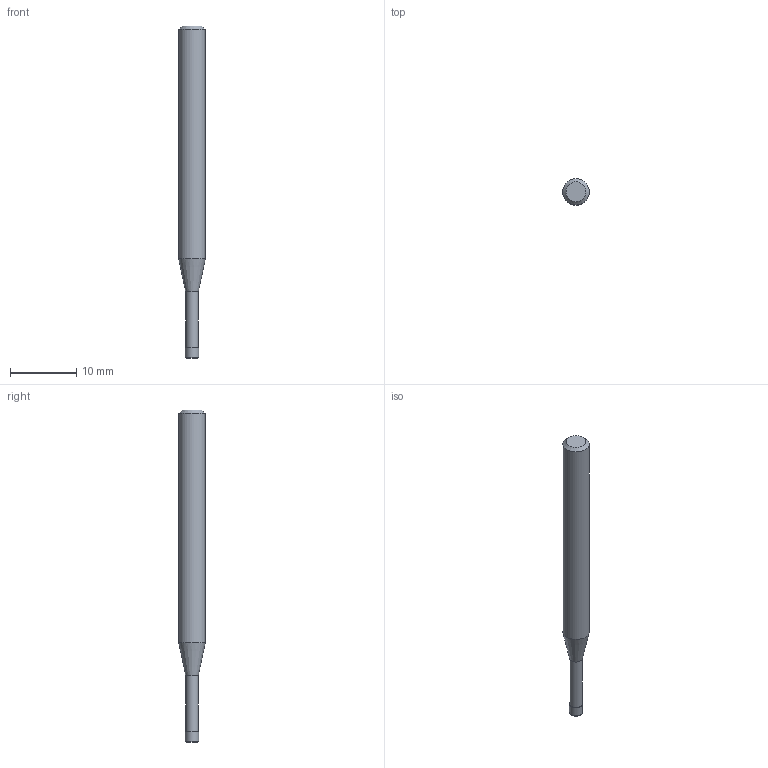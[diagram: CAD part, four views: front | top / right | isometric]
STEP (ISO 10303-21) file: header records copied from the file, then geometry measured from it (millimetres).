
FILE_DESCRIPTION((''),'2;1');
FILE_NAME('C:\Users\nsx150\AppData\Local\Temp\Mastercam 2021\CSMVKW3037\TEMP.step','2023-06-23T16:03:31',(''),(''),'STEP Write','Mastercam 2021 ... CNC Software, Inc.','');
FILE_SCHEMA(('AUTOMOTIVE_DESIGN'));
Length unit declared in the file: millimetre
Products named in the file (1): None
Bounding box: 4 x 4 x 50 mm (x, y, z)
Volume: 503.6 mm3; surface area: 565.4 mm2
Topology: 2 solids, 2 shells, 10 faces, 14 edges, 8 vertices
Faces by surface type: plane 4, cylinder 3, cone 2, torus 1
Full cylindrical faces by diameter (mm): 1.91 x1, 2 x1, 4 x1
Entity records: 232 total; most frequent: DIRECTION 40, CARTESIAN_POINT 28, AXIS2_PLACEMENT_3D 20, ORIENTED_EDGE 16, EDGE_LOOP 16, STYLED_ITEM 13, ADVANCED_FACE 10, FACE_BOUND 10
